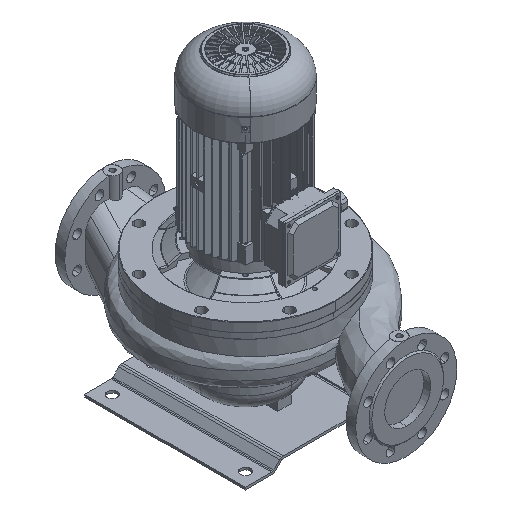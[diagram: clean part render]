
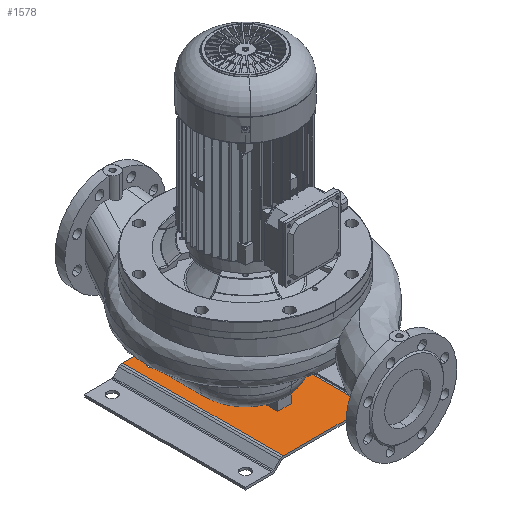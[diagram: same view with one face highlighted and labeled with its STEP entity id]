
A CAD part, isometric view. The second image highlights one B-rep face of the part: STEP entity #1578.
In plain terms, the highlighted planar face has unit normal (0, 0, 1) as drawn and (0, 1, 0) by its records, which use the part's own axes.
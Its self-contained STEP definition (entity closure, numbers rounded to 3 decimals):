
#1578=ADVANCED_FACE('',(#2971,#2972,#2973,#2974,#2975,#2976),#2977,.T.);
#1622=EDGE_CURVE('',#3051,#3052,#3053,.T.);
#2971=FACE_BOUND('',#7865,.T.);
#2972=FACE_BOUND('',#7866,.T.);
#2973=FACE_BOUND('',#7867,.T.);
#2974=FACE_BOUND('',#7868,.T.);
#2975=FACE_BOUND('',#7869,.T.);
#2976=FACE_OUTER_BOUND('',#7870,.T.);
#2977=PLANE('',#7871);
#3051=VERTEX_POINT('',#7954);
#3052=VERTEX_POINT('',#7955);
#3053=LINE('',#7956,#7957);
#7865=EDGE_LOOP('',(#13429,#13430));
#7866=EDGE_LOOP('',(#13431,#13432));
#7867=EDGE_LOOP('',(#13433,#13434));
#7868=EDGE_LOOP('',(#13435,#13436));
#7869=EDGE_LOOP('',(#13437,#13438));
#7870=EDGE_LOOP('',(#13439,#13440,#13441,#13442));
#7871=AXIS2_PLACEMENT_3D('',#13443,#13444,#13445);
#7954=CARTESIAN_POINT('',(82.556,23.0,0.0));
#7955=CARTESIAN_POINT('',(267.444,23.0,0.0));
#7956=CARTESIAN_POINT('',(78.0,23.0,0.0));
#7957=VECTOR('',#13644,1.0);
#13429=ORIENTED_EDGE('',*,*,#19463,.T.);
#13430=ORIENTED_EDGE('',*,*,#19453,.T.);
#13431=ORIENTED_EDGE('',*,*,#19466,.T.);
#13432=ORIENTED_EDGE('',*,*,#19448,.T.);
#13433=ORIENTED_EDGE('',*,*,#19472,.T.);
#13434=ORIENTED_EDGE('',*,*,#19438,.T.);
#13435=ORIENTED_EDGE('',*,*,#19478,.T.);
#13436=ORIENTED_EDGE('',*,*,#19428,.T.);
#13437=ORIENTED_EDGE('',*,*,#19484,.T.);
#13438=ORIENTED_EDGE('',*,*,#19418,.T.);
#13439=ORIENTED_EDGE('',*,*,#19501,.F.);
#13440=ORIENTED_EDGE('',*,*,#19502,.F.);
#13441=ORIENTED_EDGE('',*,*,#19402,.F.);
#13442=ORIENTED_EDGE('',*,*,#1622,.F.);
#13443=CARTESIAN_POINT('',(126.5,23.0,0.0));
#13444=DIRECTION('',(0.0,1.0,0.0));
#13445=DIRECTION('',(-1.0,0.0,0.0));
#13644=DIRECTION('',(1.0,0.0,0.0));
#19402=EDGE_CURVE('',#3052,#32478,#32479,.T.);
#19418=EDGE_CURVE('',#32499,#32503,#32505,.T.);
#19428=EDGE_CURVE('',#32517,#32521,#32523,.T.);
#19438=EDGE_CURVE('',#32535,#32539,#32541,.T.);
#19448=EDGE_CURVE('',#32553,#32557,#32559,.T.);
#19453=EDGE_CURVE('',#32562,#32566,#32568,.T.);
#19463=EDGE_CURVE('',#32566,#32562,#32582,.T.);
#19466=EDGE_CURVE('',#32557,#32553,#32585,.T.);
#19472=EDGE_CURVE('',#32539,#32535,#32591,.T.);
#19478=EDGE_CURVE('',#32521,#32517,#32597,.T.);
#19484=EDGE_CURVE('',#32503,#32499,#32603,.T.);
#19501=EDGE_CURVE('',#32626,#3051,#32627,.T.);
#19502=EDGE_CURVE('',#32478,#32626,#32628,.T.);
#32478=VERTEX_POINT('',#39070);
#32479=LINE('',#39071,#39072);
#32499=VERTEX_POINT('',#39096);
#32503=VERTEX_POINT('',#39101);
#32505=CIRCLE('',#39104,7.0);
#32517=VERTEX_POINT('',#39118);
#32521=VERTEX_POINT('',#39123);
#32523=CIRCLE('',#39126,7.0);
#32535=VERTEX_POINT('',#39140);
#32539=VERTEX_POINT('',#39145);
#32541=CIRCLE('',#39148,7.0);
#32553=VERTEX_POINT('',#39162);
#32557=VERTEX_POINT('',#39167);
#32559=CIRCLE('',#39170,7.);
#32562=VERTEX_POINT('',#39173);
#32566=VERTEX_POINT('',#39178);
#32568=CIRCLE('',#39181,7.0);
#32582=CIRCLE('',#39197,7.0);
#32585=CIRCLE('',#39200,7.);
#32591=CIRCLE('',#39206,7.0);
#32597=CIRCLE('',#39212,7.0);
#32603=CIRCLE('',#39218,7.0);
#32626=VERTEX_POINT('',#39251);
#32627=LINE('',#39252,#39253);
#32628=LINE('',#39254,#39255);
#39070=CARTESIAN_POINT('',(267.444,23.0,350.0));
#39071=CARTESIAN_POINT('',(267.444,23.0,0.0));
#39072=VECTOR('',#46387,1.0);
#39096=CARTESIAN_POINT('',(240.,23.0,308.0));
#39101=CARTESIAN_POINT('',(240.,23.0,322.0));
#39104=AXIS2_PLACEMENT_3D('',#46412,#46413,#46414);
#39118=CARTESIAN_POINT('',(110.,23.0,308.0));
#39123=CARTESIAN_POINT('',(110.,23.0,322.0));
#39126=AXIS2_PLACEMENT_3D('',#46428,#46429,#46430);
#39140=CARTESIAN_POINT('',(130.,23.0,233.0));
#39145=CARTESIAN_POINT('',(130.,23.0,247.0));
#39148=AXIS2_PLACEMENT_3D('',#46444,#46445,#46446);
#39162=CARTESIAN_POINT('',(169.198,23.0,101.083));
#39167=CARTESIAN_POINT('',(180.802,23.0,108.917));
#39170=AXIS2_PLACEMENT_3D('',#46460,#46461,#46462);
#39173=CARTESIAN_POINT('',(220.,23.0,233.0));
#39178=CARTESIAN_POINT('',(220.,23.0,247.0));
#39181=AXIS2_PLACEMENT_3D('',#46468,#46469,#46470);
#39197=AXIS2_PLACEMENT_3D('',#46485,#46486,#46487);
#39200=AXIS2_PLACEMENT_3D('',#46491,#46492,#46493);
#39206=AXIS2_PLACEMENT_3D('',#46503,#46504,#46505);
#39212=AXIS2_PLACEMENT_3D('',#46515,#46516,#46517);
#39218=AXIS2_PLACEMENT_3D('',#46527,#46528,#46529);
#39251=CARTESIAN_POINT('',(82.556,23.0,350.0));
#39252=CARTESIAN_POINT('',(82.556,23.0,0.0));
#39253=VECTOR('',#46543,1.0);
#39254=CARTESIAN_POINT('',(272.,23.0,350.0));
#39255=VECTOR('',#46544,1.);
#46387=DIRECTION('',(0.0,0.0,1.0));
#46412=CARTESIAN_POINT('',(240.,23.0,315.0));
#46413=DIRECTION('',(0.0,-1.0,0.0));
#46414=DIRECTION('',(0.0,0.0,-1.0));
#46428=CARTESIAN_POINT('',(110.,23.0,315.0));
#46429=DIRECTION('',(0.0,-1.0,0.0));
#46430=DIRECTION('',(0.0,0.0,-1.0));
#46444=CARTESIAN_POINT('',(130.,23.0,240.0));
#46445=DIRECTION('',(0.0,-1.0,0.0));
#46446=DIRECTION('',(0.0,0.0,-1.0));
#46460=CARTESIAN_POINT('',(175.,23.0,105.0));
#46461=DIRECTION('',(-0.0,-1.0,0.0));
#46462=DIRECTION('',(-0.829,0.0,-0.56));
#46468=CARTESIAN_POINT('',(220.,23.0,240.0));
#46469=DIRECTION('',(0.0,-1.0,0.0));
#46470=DIRECTION('',(0.0,0.0,-1.0));
#46485=CARTESIAN_POINT('',(220.,23.0,240.0));
#46486=DIRECTION('',(0.0,-1.0,0.0));
#46487=DIRECTION('',(0.0,0.0,-1.0));
#46491=CARTESIAN_POINT('',(175.,23.0,105.0));
#46492=DIRECTION('',(-0.0,-1.0,0.0));
#46493=DIRECTION('',(-0.829,0.0,-0.56));
#46503=CARTESIAN_POINT('',(130.,23.0,240.0));
#46504=DIRECTION('',(0.0,-1.0,0.0));
#46505=DIRECTION('',(0.0,0.0,-1.0));
#46515=CARTESIAN_POINT('',(110.,23.0,315.0));
#46516=DIRECTION('',(0.0,-1.0,0.0));
#46517=DIRECTION('',(0.0,0.0,-1.0));
#46527=CARTESIAN_POINT('',(240.,23.0,315.0));
#46528=DIRECTION('',(0.0,-1.0,0.0));
#46529=DIRECTION('',(0.0,0.0,-1.0));
#46543=DIRECTION('',(0.0,0.0,-1.0));
#46544=DIRECTION('',(-1.0,0.0,0.0));
